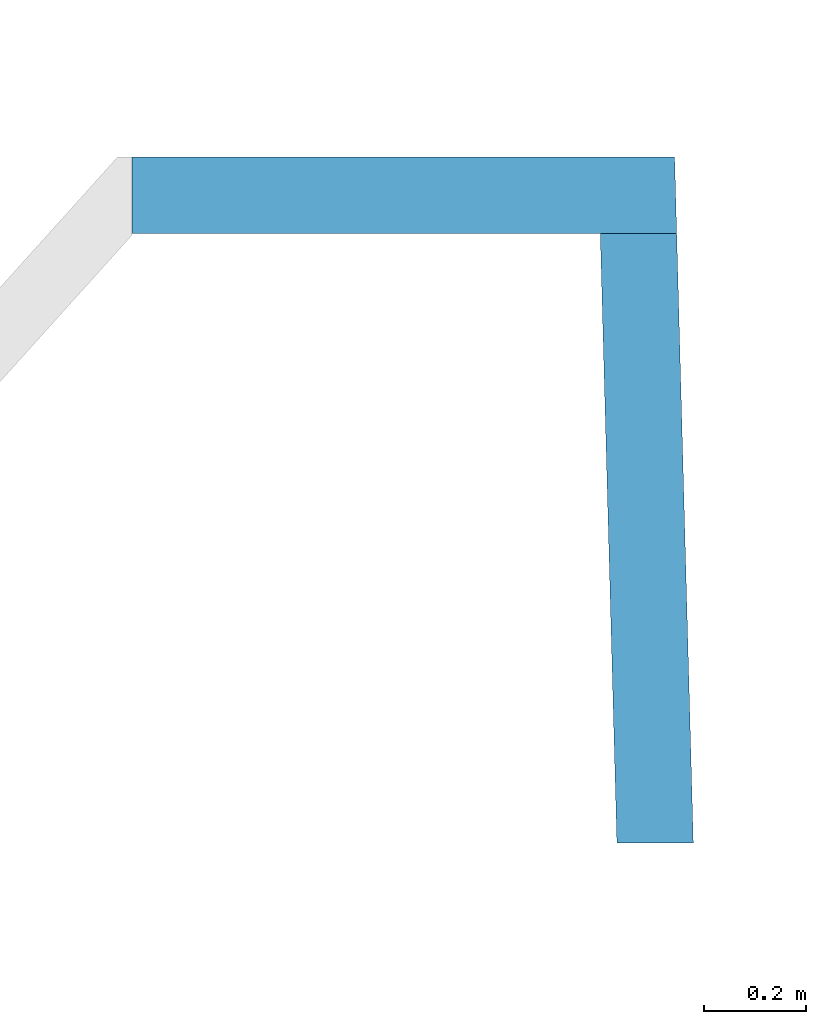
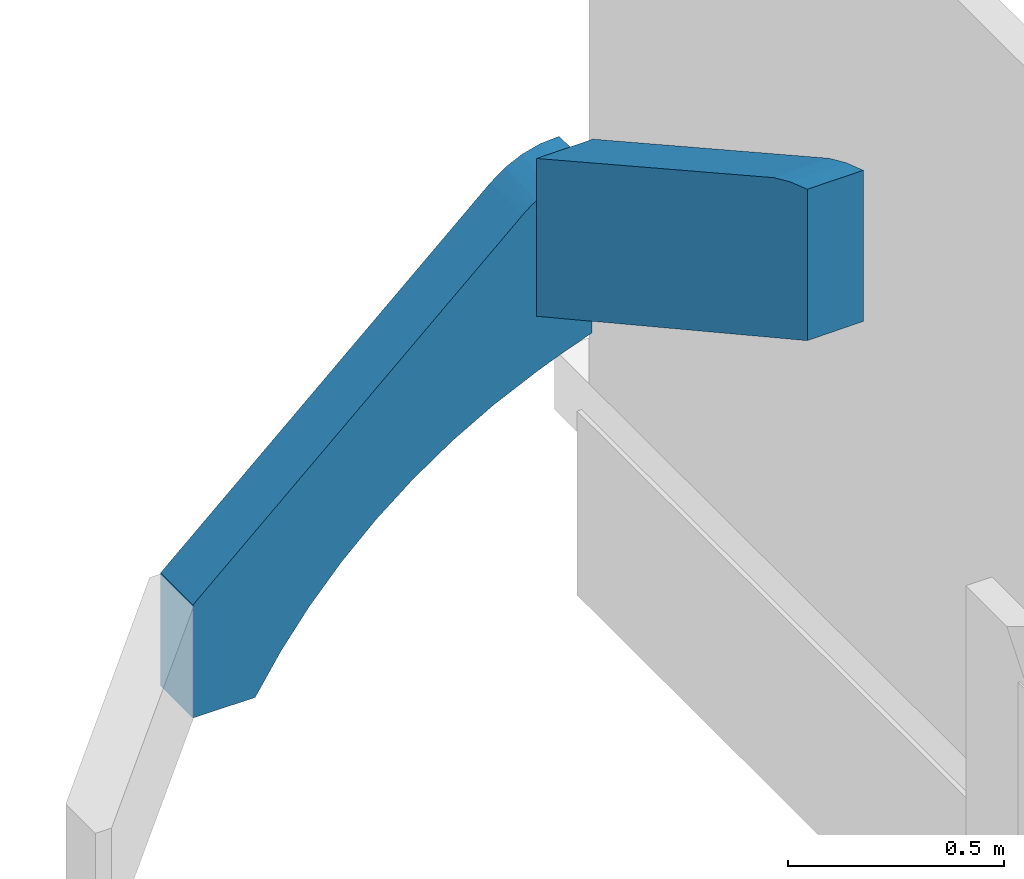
# One storey, part 25 of 32: 1 stair.
"""IFC4 building model written with IfcOpenShell, lengths in metres."""

from ifc_helpers import new_model, entity, si_unit, converted_unit, derived_unit, direction, frame, origin, place, context, subcontext, project, spatial, polygons, material, type_object, element, save


model = new_model("IFC4")

# Units and contexts
model_context = context("Model", 3, precision=1e-05, world=origin(), true_north=direction((6.12303176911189e-17, 1.0)))
body_context = subcontext(model_context, "Body", "Model", "MODEL_VIEW")
ifc_project = project(units=[si_unit("LENGTHUNIT", "METRE"), si_unit("AREAUNIT", "SQUARE_METRE"), si_unit("VOLUMEUNIT", "CUBIC_METRE"), converted_unit("PLANEANGLEUNIT", "DEGREE", entity("IfcRatioMeasure", 0.0174532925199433), si_unit("PLANEANGLEUNIT", "RADIAN"), dimensions=[0, 0, 0, 0, 0, 0, 0]), si_unit("MASSUNIT", "GRAM", prefix="KILO"), derived_unit("MASSDENSITYUNIT", [(si_unit("MASSUNIT", "GRAM", prefix="KILO"), 1), (si_unit("LENGTHUNIT", "METRE"), -3)]), derived_unit("MOMENTOFINERTIAUNIT", [(si_unit("LENGTHUNIT", "METRE"), 4)]), si_unit("TIMEUNIT", "SECOND"), si_unit("FREQUENCYUNIT", "HERTZ"), si_unit("THERMODYNAMICTEMPERATUREUNIT", "DEGREE_CELSIUS"), derived_unit("THERMALTRANSMITTANCEUNIT", [(si_unit("MASSUNIT", "GRAM", prefix="KILO"), 1), (si_unit("THERMODYNAMICTEMPERATUREUNIT", "KELVIN"), -1), (si_unit("TIMEUNIT", "SECOND"), -3)]), derived_unit("VOLUMETRICFLOWRATEUNIT", [(si_unit("LENGTHUNIT", "METRE"), 3), (si_unit("TIMEUNIT", "SECOND"), -1)]), si_unit("ELECTRICCURRENTUNIT", "AMPERE"), si_unit("ELECTRICVOLTAGEUNIT", "VOLT"), si_unit("POWERUNIT", "WATT"), si_unit("FORCEUNIT", "NEWTON", prefix="KILO"), si_unit("ILLUMINANCEUNIT", "LUX"), si_unit("LUMINOUSFLUXUNIT", "LUMEN"), si_unit("LUMINOUSINTENSITYUNIT", "CANDELA"), derived_unit("USERDEFINED", [(si_unit("MASSUNIT", "GRAM", prefix="KILO"), -1), (si_unit("LENGTHUNIT", "METRE"), -2), (si_unit("TIMEUNIT", "SECOND"), 3), (si_unit("LUMINOUSFLUXUNIT", "LUMEN"), 1)]), derived_unit("LINEARVELOCITYUNIT", [(si_unit("LENGTHUNIT", "METRE"), 1), (si_unit("TIMEUNIT", "SECOND"), -1)]), si_unit("PRESSUREUNIT", "PASCAL"), derived_unit("USERDEFINED", [(si_unit("LENGTHUNIT", "METRE"), -2), (si_unit("MASSUNIT", "GRAM", prefix="KILO"), 1), (si_unit("TIMEUNIT", "SECOND"), -2)]), derived_unit("LINEARFORCEUNIT", [(si_unit("MASSUNIT", "GRAM", prefix="KILO"), 1), (si_unit("LENGTHUNIT", "METRE"), 1), (si_unit("TIMEUNIT", "SECOND"), -2), (si_unit("LENGTHUNIT", "METRE"), -1)]), derived_unit("PLANARFORCEUNIT", [(si_unit("MASSUNIT", "GRAM", prefix="KILO"), 1), (si_unit("LENGTHUNIT", "METRE"), 1), (si_unit("TIMEUNIT", "SECOND"), -2), (si_unit("LENGTHUNIT", "METRE"), -2)])], contexts=[model_context])

# Site, building, storey
site_placement = place(None, origin())
site = spatial("IfcSite", under=ifc_project, at=site_placement, Name="Default", CompositionType="ELEMENT")
building_placement = place(site_placement, origin())
building = spatial("IfcBuilding", under=site, at=building_placement, Name="HOTEL CONSULAIRE BOULOGNE SUR MER", CompositionType="ELEMENT")
storey_placement = place(building_placement, frame((0.0, 0.0, -2.70343668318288)))
storey = spatial("IfcBuildingStorey", under=building, at=storey_placement, Name="SS1", CompositionType="ELEMENT", Elevation=-2.70343668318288)

# Stair
ifc_material = material(Name="Finition Peinture - Blanc satiné", Category="Peinture")
stair_type = type_object("IfcStairType", Name="LIMON 2:LIMON 2", PredefinedType="NOTDEFINED")
stair_placement = place(storey_placement, frame((-3.25246447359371, -12.9507163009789, 1.04597545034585)))
element("IfcStair", 1, at=stair_placement, inside=storey, type_object=stair_type, material=ifc_material, Name="LIMON 2:LIMON 2", ObjectType="LIMON 2:LIMON 2", PredefinedType="NOTDEFINED", context=body_context, shape_type="Tessellation", body=[
    polygons([(0.0, 1.19806217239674, 0.00159527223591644), (0.0, 1.34806217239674, 0.00159527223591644), (0.166383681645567, 1.34806217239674, 0.00159527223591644), (0.166383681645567, 1.19806217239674, 0.00159527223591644), (-5.41433564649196e-16, 1.34806217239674, 0.321261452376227), (0.882112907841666, 1.34806217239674, 1.11551948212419), (0.922154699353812, 1.34806217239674, 1.14514884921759), (0.967114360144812, 1.34806217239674, 1.1665935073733), (1.01533981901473, 1.34806217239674, 1.17906545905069), (1.06505900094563, 1.34806217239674, 1.18210641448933), (1.06505900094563, 1.34806217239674, 0.711852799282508), (0.942302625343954, 1.34806217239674, 0.668480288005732), (0.823527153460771, 1.34806217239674, 0.615163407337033), (0.709536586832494, 1.34806217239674, 0.552263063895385), (0.601102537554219, 1.34806217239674, 0.48020503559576), (0.498959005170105, 1.34806217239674, 0.399477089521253), (0.403797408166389, 1.34806217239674, 0.31062568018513), (0.316261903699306, 1.34806217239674, 0.214252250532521), (0.236945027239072, 1.34806217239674, 0.111009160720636), (0.0, 1.19806217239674, 0.321261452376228), (0.235141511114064, 1.19806217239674, 0.10844482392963), (0.312250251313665, 1.19806217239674, 0.209433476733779), (0.397212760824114, 1.19806217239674, 0.303910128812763), (0.489481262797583, 1.19806217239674, 0.391265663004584), (0.588460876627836, 1.19806217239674, 0.47093687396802), (0.693513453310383, 1.19806217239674, 0.542410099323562), (0.803961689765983, 1.19806217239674, 0.605224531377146), (0.919093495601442, 1.19806217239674, 0.658975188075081), (0.919093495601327, 1.19806217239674, 0.815579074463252), (0.919093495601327, 1.19806217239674, 1.14328062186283), (0.899984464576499, 1.19806217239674, 1.13022427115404), (0.882112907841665, 1.19806217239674, 1.11551948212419), (0.919093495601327, 1.19806217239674, 1.26163413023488), (0.951719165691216, 0.00159527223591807, 1.46059128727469), (0.951719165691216, 0.00159527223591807, 1.8886453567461), (0.949682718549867, 0.0762770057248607, 1.8648475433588), (0.947719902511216, 0.148258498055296, 1.83382083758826), (1.06710447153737, 1.27304952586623, 1.18202691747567), (1.06914925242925, 1.19806217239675, 1.18193130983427), (1.06914925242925, 1.19806217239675, 1.26386265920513), (1.09766416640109, 0.152347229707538, 1.83382083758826), (1.09968099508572, 0.0783849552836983, 1.86558498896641), (1.10177492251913, 0.00159527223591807, 1.88971809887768), (1.10177492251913, 0.00159527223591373, 1.46279551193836), (1.0690377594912, 1.20215090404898, 0.815579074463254), (1.0690377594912, 1.20215090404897, 0.713071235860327), (1.06704797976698, 1.27512122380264, 0.712463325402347), (1.02984666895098, 1.19806217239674, 1.18094624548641), (0.991183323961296, 1.19806217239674, 1.1740537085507), (0.953985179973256, 1.19806217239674, 1.16140683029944), (0.993384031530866, 1.20008795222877, 0.687912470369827), (1.02672093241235, 0.00159527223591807, 1.88918444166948)], [[[1, 2, 3, 4]], [[9, 10, 11, 12, 13, 14, 15, 16, 17, 18, 19, 3, 2, 5, 6, 7, 8]], [[48, 49, 50, 30, 33, 40, 39]], [[20, 5, 2, 1]], [[29, 30, 31, 32, 20, 1, 4, 21, 22, 23, 24, 25, 26, 27, 28]], [[43, 52, 35, 34, 44]], [[34, 35, 36, 37, 33, 30, 29]], [[43, 44, 45, 46, 47, 11, 10, 38, 39, 40, 41, 42]], [[5, 20, 32, 6]], [[7, 31, 30]], [[7, 30, 50]], [[32, 31, 6]], [[6, 31, 7]], [[50, 8, 7]], [[9, 49, 48]], [[38, 48, 39]], [[8, 49, 9]], [[38, 10, 9]], [[48, 38, 9]], [[49, 8, 50]], [[37, 41, 40, 33]], [[51, 46, 45, 29, 28]], [[34, 29, 45, 44]], [[52, 36, 35]], [[42, 52, 43]], [[42, 41, 36]], [[37, 36, 41]], [[42, 36, 52]], [[12, 11, 47]], [[14, 13, 27]], [[12, 47, 13]], [[14, 26, 15]], [[51, 47, 46]], [[28, 47, 51]], [[47, 28, 13]], [[28, 27, 13]], [[27, 26, 14]], [[26, 25, 15]], [[17, 16, 24]], [[19, 18, 22]], [[23, 18, 17]], [[3, 19, 21]], [[25, 24, 16]], [[24, 23, 17]], [[18, 23, 22]], [[22, 21, 19]], [[21, 4, 3]], [[15, 25, 16]]], closed=True),
])

save(model, "model.ifc")
